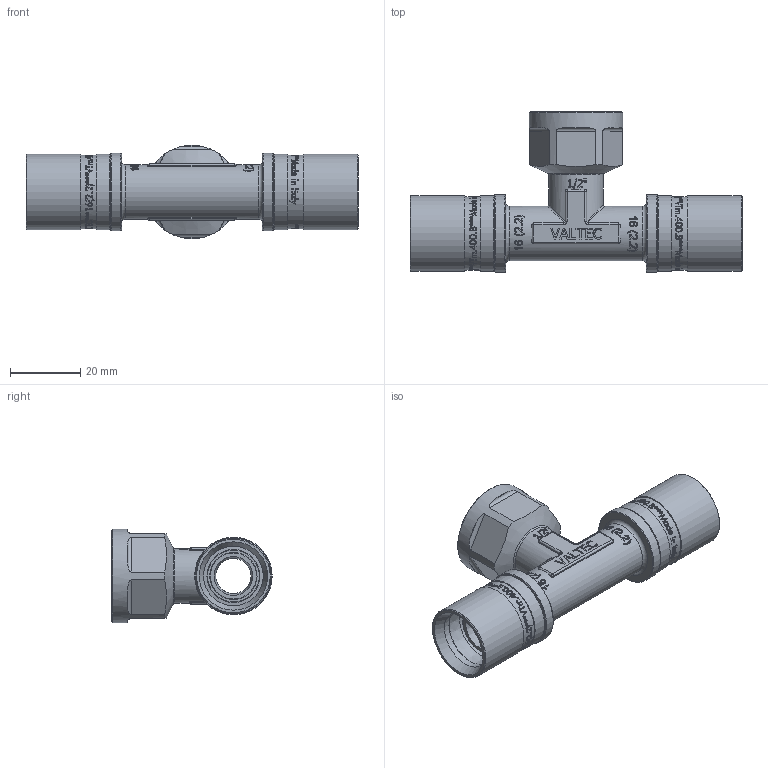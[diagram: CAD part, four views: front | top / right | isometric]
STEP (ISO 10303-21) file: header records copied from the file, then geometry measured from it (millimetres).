
FILE_DESCRIPTION(/* description */ (''),/* implementation_level */ '2;1');
FILE_NAME(/* name */ 'F:\Артём\00000\Работа удаленка\Аксеальные фитинги\VTm.432.BG.160416.stp',/* time_stamp */ '2021-01-26T14:19:44+03:00',/* author */ ('almis'),/* organization */ (''),/* preprocessor_version */ 'ST-DEVELOPER v18',/* originating_system */ 'Autodesk Inventor 2020',/* authorisation */ '');
FILE_SCHEMA (('AUTOMOTIVE_DESIGN { 1 0 10303 214 3 1 1 }'));
Products named in the file (1): VTm.432.BG.160416
Bounding box: 94.2 x 45.5 x 26.5 mm (x, y, z)
Volume: 19208.7 mm3; surface area: 17943.4 mm2
Topology: 1 solids, 1 shells, 1832 faces, 5022 edges, 3359 vertices
Faces by surface type: bspline 844, plane 679, cylinder 224, torus 51, cone 23, sphere 11
Full cylindrical faces by diameter (mm): 10 x2, 12.8 x10, 13.4 x8, 15 x2, 15.5 x2, 16.9 x4, 18.6 x5, 20.8 x2, 21.4 x4, 22 x2, 22.2 x6, 26.5 x1
Entity records: 75631 total; most frequent: CARTESIAN_POINT 34081, ORIENTED_EDGE 10044, DIRECTION 6144, EDGE_CURVE 5022, VERTEX_POINT 3359, LINE 2356, VECTOR 2356, EDGE_LOOP 2003
